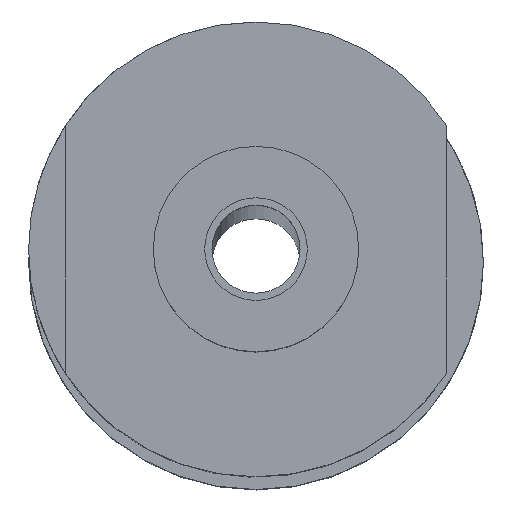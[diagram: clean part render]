
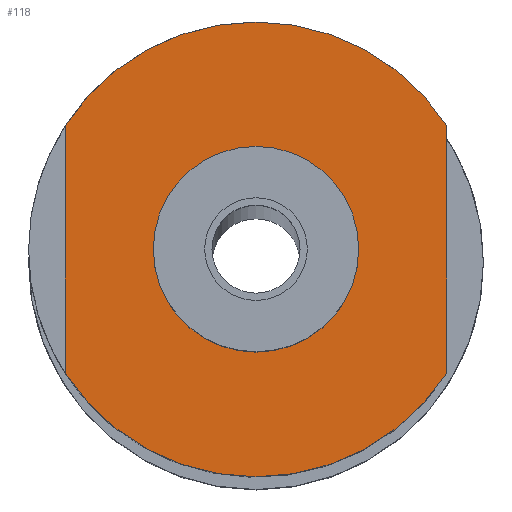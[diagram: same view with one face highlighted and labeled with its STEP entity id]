
A CAD part, top view. The second image highlights one B-rep face of the part: STEP entity #118.
In plain terms, the highlighted planar face has unit normal (0, 0, 1).
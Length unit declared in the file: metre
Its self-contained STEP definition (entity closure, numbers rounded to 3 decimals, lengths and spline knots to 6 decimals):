
#118=ADVANCED_FACE('37:1511',(#234,#235),#236,.T.);
#234=FACE_OUTER_BOUND('',#357,.T.);
#235=FACE_BOUND('',#358,.T.);
#236=PLANE('',#359);
#357=EDGE_LOOP('',(#573,#574,#575,#576,#577,#578));
#358=EDGE_LOOP('',(#579,#580));
#359=AXIS2_PLACEMENT_3D('',#581,#582,#583);
#573=ORIENTED_EDGE('',*,*,#739,.F.);
#574=ORIENTED_EDGE('',*,*,#740,.F.);
#575=ORIENTED_EDGE('',*,*,#741,.F.);
#576=ORIENTED_EDGE('',*,*,#667,.F.);
#577=ORIENTED_EDGE('',*,*,#666,.F.);
#578=ORIENTED_EDGE('',*,*,#736,.T.);
#579=ORIENTED_EDGE('',*,*,#729,.F.);
#580=ORIENTED_EDGE('',*,*,#677,.F.);
#581=CARTESIAN_POINT('',(0.0,0.0,2.875));
#582=DIRECTION('',(0.0,0.0,1.0));
#583=DIRECTION('',(1.0,0.0,0.0));
#666=EDGE_CURVE('37:1561',#785,#787,#788,.F.);
#667=EDGE_CURVE('37:1552',#787,#789,#790,.F.);
#677=EDGE_CURVE('',#804,#807,#808,.T.);
#729=EDGE_CURVE('37:1539',#807,#804,#882,.T.);
#736=EDGE_CURVE('37:3142',#785,#890,#891,.T.);
#739=EDGE_CURVE('37:1549',#894,#890,#895,.F.);
#740=EDGE_CURVE('37:1558',#896,#894,#897,.F.);
#741=EDGE_CURVE('37:2641',#789,#896,#898,.F.);
#785=VERTEX_POINT('',#967);
#787=VERTEX_POINT('',#970);
#788=CIRCLE('',#971,0.0155);
#789=VERTEX_POINT('',#972);
#790=CIRCLE('',#973,0.0155);
#804=VERTEX_POINT('',#990);
#807=VERTEX_POINT('',#994);
#808=CIRCLE('',#995,0.007);
#882=CIRCLE('',#1085,0.007);
#890=VERTEX_POINT('',#1094);
#891=LINE('',#1095,#1096);
#894=VERTEX_POINT('',#1100);
#895=CIRCLE('',#1101,0.0155);
#896=VERTEX_POINT('',#1102);
#897=CIRCLE('',#1103,0.0155);
#898=LINE('',#1104,#1105);
#967=CARTESIAN_POINT('',(-0.013092,0.008536,2.875));
#970=CARTESIAN_POINT('',(-0.000092,0.015595,2.875));
#971=AXIS2_PLACEMENT_3D('',#1181,#1182,#1183);
#972=CARTESIAN_POINT('',(0.012908,0.008536,2.875));
#973=AXIS2_PLACEMENT_3D('',#1184,#1185,#1186);
#990=CARTESIAN_POINT('',(0.006908,0.000095,2.875));
#994=CARTESIAN_POINT('',(-0.007092,0.000095,2.875));
#995=AXIS2_PLACEMENT_3D('',#1200,#1201,#1202);
#1085=AXIS2_PLACEMENT_3D('',#1279,#1280,#1281);
#1094=CARTESIAN_POINT('',(-0.013092,-0.008346,2.875));
#1095=CARTESIAN_POINT('',(-0.013092,0.000048,2.875));
#1096=VECTOR('',#1289,1.0);
#1100=CARTESIAN_POINT('',(-0.000092,-0.015405,2.875));
#1101=AXIS2_PLACEMENT_3D('',#1291,#1292,#1293);
#1102=CARTESIAN_POINT('',(0.012908,-0.008346,2.875));
#1103=AXIS2_PLACEMENT_3D('',#1294,#1295,#1296);
#1104=CARTESIAN_POINT('',(0.012908,0.000048,2.875));
#1105=VECTOR('',#1297,1.0);
#1181=CARTESIAN_POINT('',(-0.000092,0.000095,2.875));
#1182=DIRECTION('',(0.0,0.0,1.0));
#1183=DIRECTION('',(1.0,0.0,0.0));
#1184=CARTESIAN_POINT('',(-0.000092,0.000095,2.875));
#1185=DIRECTION('',(0.0,0.0,1.0));
#1186=DIRECTION('',(1.0,0.0,0.0));
#1200=CARTESIAN_POINT('',(-0.000092,0.000095,2.875));
#1201=DIRECTION('',(0.0,0.0,1.0));
#1202=DIRECTION('',(1.0,0.0,-0.0));
#1279=CARTESIAN_POINT('',(-0.000092,0.000095,2.875));
#1280=DIRECTION('',(0.0,0.0,1.0));
#1281=DIRECTION('',(1.0,0.0,-0.0));
#1289=DIRECTION('',(0.,-1.0,0.0));
#1291=CARTESIAN_POINT('',(-0.000092,0.000095,2.875));
#1292=DIRECTION('',(0.0,0.0,1.0));
#1293=DIRECTION('',(1.0,0.0,0.0));
#1294=CARTESIAN_POINT('',(-0.000092,0.000095,2.875));
#1295=DIRECTION('',(0.0,0.0,1.0));
#1296=DIRECTION('',(1.0,0.0,0.0));
#1297=DIRECTION('',(0.,1.0,0.0));
